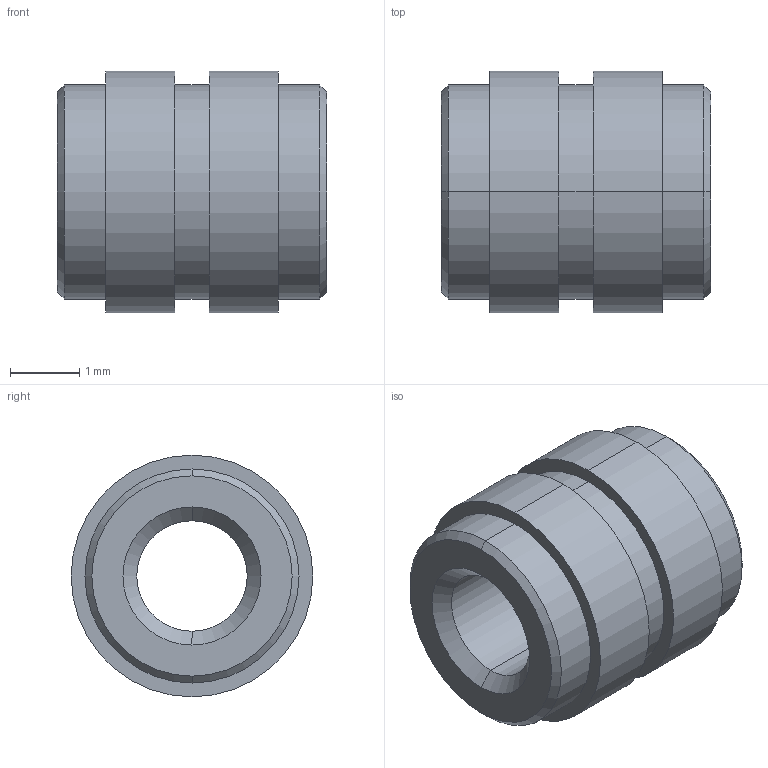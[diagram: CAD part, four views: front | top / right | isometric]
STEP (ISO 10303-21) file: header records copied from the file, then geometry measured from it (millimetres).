
FILE_DESCRIPTION (( 'STEP AP203' ), '1' );
FILE_NAME ('FSUK-HIHL-M02-S.STEP', '2021-04-15T12:45:53', ( '' ), ( '' ), 'SwSTEP 2.0', 'SolidWorks 2021', '' );
FILE_SCHEMA (( 'CONFIG_CONTROL_DESIGN' ));
Length unit declared in the file: millimetre
Products named in the file (1): FSUK-HIHL-M02-S
Bounding box: 3.9 x 3.5 x 3.5 mm (x, y, z)
Volume: 25.4 mm3; surface area: 77.2 mm2
Topology: 1 solids, 1 shells, 26 faces, 52 edges, 32 vertices
Faces by surface type: cylinder 12, cone 8, plane 6
Entity records: 765 total; most frequent: DIRECTION 138, CARTESIAN_POINT 111, ORIENTED_EDGE 104, AXIS2_PLACEMENT_3D 59, EDGE_CURVE 52, VERTEX_POINT 32, EDGE_LOOP 32, CIRCLE 32
